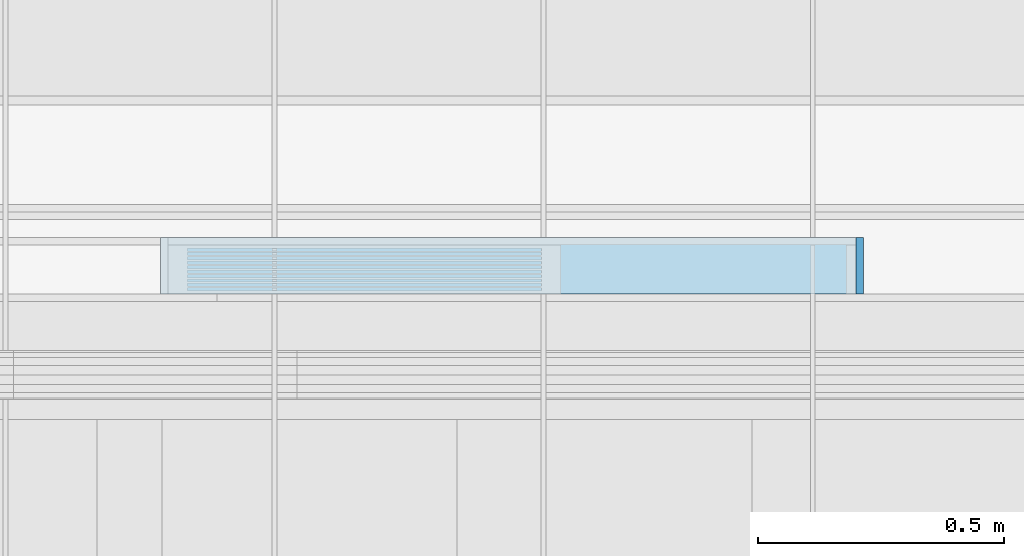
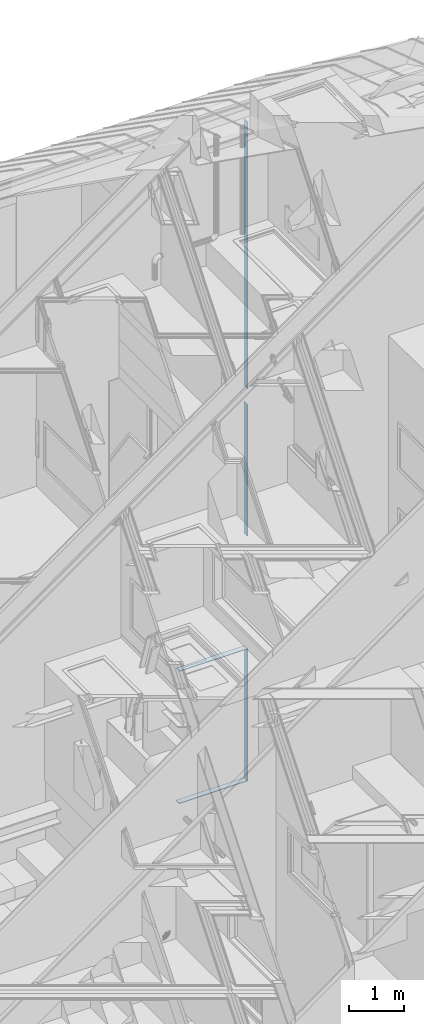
# One storey, part 294 of 583: 5 slabs.
"""IFC2X3 building model written with IfcOpenShell, lengths in metres."""

from ifc_helpers import new_model, entity, si_unit, converted_unit, derived_unit, money_unit, direction, frame, origin_with_axes, place, context, subcontext, project, spatial, faceted_brep, material, type_object, element, save


model = new_model("IFC2X3")

# Units and contexts
model_context = context("Model", 3, precision=1e-05, world=origin_with_axes(), true_north=direction((0.0, 1.0)))
body_context = subcontext(model_context, "Body", "Model", "MODEL_VIEW", scale=1.0)
ifc_project = project(units=[si_unit("LENGTHUNIT", "METRE"), si_unit("AREAUNIT", "SQUARE_METRE"), si_unit("VOLUMEUNIT", "CUBIC_METRE"), si_unit("ABSORBEDDOSEUNIT", "GRAY"), si_unit("AMOUNTOFSUBSTANCEUNIT", "MOLE"), si_unit("DOSEEQUIVALENTUNIT", "SIEVERT"), si_unit("ELECTRICCAPACITANCEUNIT", "FARAD"), si_unit("ELECTRICCHARGEUNIT", "COULOMB"), si_unit("ELECTRICCONDUCTANCEUNIT", "SIEMENS"), si_unit("ELECTRICCURRENTUNIT", "AMPERE"), si_unit("ELECTRICRESISTANCEUNIT", "OHM"), si_unit("ELECTRICVOLTAGEUNIT", "VOLT"), si_unit("ENERGYUNIT", "JOULE"), si_unit("FORCEUNIT", "NEWTON"), si_unit("FREQUENCYUNIT", "HERTZ"), si_unit("ILLUMINANCEUNIT", "LUX"), si_unit("INDUCTANCEUNIT", "HENRY"), si_unit("LUMINOUSFLUXUNIT", "LUMEN"), si_unit("LUMINOUSINTENSITYUNIT", "CANDELA"), si_unit("MAGNETICFLUXDENSITYUNIT", "TESLA"), si_unit("MAGNETICFLUXUNIT", "WEBER"), si_unit("MASSUNIT", "GRAM"), converted_unit("PLANEANGLEUNIT", "degree", entity("IfcReal", 0.0174532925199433), si_unit("PLANEANGLEUNIT", "RADIAN"), dimensions=[0, 0, 0, 0, 0, 0, 0]), si_unit("POWERUNIT", "WATT"), si_unit("PRESSUREUNIT", "PASCAL"), si_unit("RADIOACTIVITYUNIT", "BECQUEREL"), si_unit("SOLIDANGLEUNIT", "STERADIAN"), si_unit("THERMODYNAMICTEMPERATUREUNIT", "KELVIN"), si_unit("TIMEUNIT", "SECOND"), derived_unit("ACCELERATIONUNIT", [(si_unit("LENGTHUNIT", "METRE"), 1), (si_unit("TIMEUNIT", "SECOND"), -2)]), derived_unit("ANGULARVELOCITYUNIT", [(converted_unit("PLANEANGLEUNIT", "degree", entity("IfcReal", 0.0174532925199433), si_unit("PLANEANGLEUNIT", "RADIAN"), dimensions=[0, 0, 0, 0, 0, 0, 0]), 1), (si_unit("TIMEUNIT", "SECOND"), -1)]), derived_unit("CURVATUREUNIT", [(converted_unit("PLANEANGLEUNIT", "degree", entity("IfcReal", 0.0174532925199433), si_unit("PLANEANGLEUNIT", "RADIAN"), dimensions=[0, 0, 0, 0, 0, 0, 0]), 1), (si_unit("LENGTHUNIT", "METRE"), -1)]), derived_unit("DYNAMICVISCOSITYUNIT", [(si_unit("PRESSUREUNIT", "PASCAL"), 1), (si_unit("TIMEUNIT", "SECOND"), 1)]), derived_unit("HEATFLUXDENSITYUNIT", [(si_unit("POWERUNIT", "WATT"), 1), (si_unit("LENGTHUNIT", "METRE"), -2)]), derived_unit("HEATINGVALUEUNIT", [(si_unit("ENERGYUNIT", "JOULE"), 1), (si_unit("MASSUNIT", "GRAM"), -1)]), derived_unit("INTEGERCOUNTRATEUNIT", [(si_unit("TIMEUNIT", "SECOND"), -1)]), derived_unit("IONCONCENTRATIONUNIT", [(si_unit("MASSUNIT", "GRAM"), 1), (si_unit("VOLUMEUNIT", "CUBIC_METRE"), -1)]), derived_unit("ISOTHERMALMOISTURECAPACITYUNIT", [(si_unit("VOLUMEUNIT", "CUBIC_METRE"), 1), (si_unit("MASSUNIT", "GRAM"), -1)]), derived_unit("KINEMATICVISCOSITYUNIT", [(si_unit("AREAUNIT", "SQUARE_METRE"), 1), (si_unit("TIMEUNIT", "SECOND"), -1)]), derived_unit("LINEARFORCEUNIT", [(si_unit("FORCEUNIT", "NEWTON"), 1), (si_unit("LENGTHUNIT", "METRE"), -1)]), derived_unit("LINEARMOMENTUNIT", [(si_unit("FORCEUNIT", "NEWTON"), 1), (si_unit("LENGTHUNIT", "METRE"), -1)]), derived_unit("LINEARSTIFFNESSUNIT", [(si_unit("FORCEUNIT", "NEWTON"), 1), (si_unit("LENGTHUNIT", "METRE"), -1)]), derived_unit("LINEARVELOCITYUNIT", [(si_unit("LENGTHUNIT", "METRE"), 1), (si_unit("TIMEUNIT", "SECOND"), -1)]), derived_unit("LUMINOUSINTENSITYDISTRIBUTIONUNIT", [(si_unit("LUMINOUSINTENSITYUNIT", "CANDELA"), 1), (si_unit("LUMINOUSFLUXUNIT", "LUMEN"), -1)]), derived_unit("MASSDENSITYUNIT", [(si_unit("MASSUNIT", "GRAM"), 1), (si_unit("VOLUMEUNIT", "CUBIC_METRE"), -1)]), derived_unit("MASSFLOWRATEUNIT", [(si_unit("MASSUNIT", "GRAM"), 1), (si_unit("TIMEUNIT", "SECOND"), -1)]), derived_unit("MASSPERLENGTHUNIT", [(si_unit("MASSUNIT", "GRAM"), 1), (si_unit("LENGTHUNIT", "METRE"), -1)]), derived_unit("MODULUSOFELASTICITYUNIT", [(si_unit("FORCEUNIT", "NEWTON"), 1), (si_unit("AREAUNIT", "SQUARE_METRE"), -1)]), derived_unit("MODULUSOFLINEARSUBGRADEREACTIONUNIT", [(si_unit("FORCEUNIT", "NEWTON"), 1), (si_unit("LENGTHUNIT", "METRE"), -2)]), derived_unit("MODULUSOFROTATIONALSUBGRADEREACTIONUNIT", [(si_unit("FORCEUNIT", "NEWTON"), 1), (si_unit("LENGTHUNIT", "METRE"), 1)]), derived_unit("MODULUSOFSUBGRADEREACTIONUNIT", [(si_unit("FORCEUNIT", "NEWTON"), 1), (si_unit("VOLUMEUNIT", "CUBIC_METRE"), -1)]), derived_unit("MOISTUREDIFFUSIVITYUNIT", [(si_unit("VOLUMEUNIT", "CUBIC_METRE"), 1), (si_unit("TIMEUNIT", "SECOND"), -1)]), derived_unit("MOLECULARWEIGHTUNIT", [(si_unit("MASSUNIT", "GRAM"), 1), (si_unit("AMOUNTOFSUBSTANCEUNIT", "MOLE"), -1)]), derived_unit("PLANARFORCEUNIT", [(si_unit("FORCEUNIT", "NEWTON"), 1), (si_unit("LENGTHUNIT", "METRE"), -2)]), derived_unit("ROTATIONALFREQUENCYUNIT", [(si_unit("TIMEUNIT", "SECOND"), -1)]), derived_unit("ROTATIONALMASSUNIT", [(si_unit("MASSUNIT", "GRAM"), 1), (si_unit("LENGTHUNIT", "METRE"), 2)]), derived_unit("ROTATIONALSTIFFNESSUNIT", [(si_unit("FORCEUNIT", "NEWTON"), 1), (si_unit("LENGTHUNIT", "METRE"), 1), (converted_unit("PLANEANGLEUNIT", "degree", entity("IfcReal", 0.0174532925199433), si_unit("PLANEANGLEUNIT", "RADIAN"), dimensions=[0, 0, 0, 0, 0, 0, 0]), -1)]), derived_unit("SECTIONAREAINTEGRALUNIT", [(si_unit("LENGTHUNIT", "METRE"), 5)]), derived_unit("SECTIONMODULUSUNIT", [(si_unit("LENGTHUNIT", "METRE"), 3)]), derived_unit("SHEARMODULUSUNIT", [(si_unit("FORCEUNIT", "NEWTON"), 1), (si_unit("AREAUNIT", "SQUARE_METRE"), -1)]), derived_unit("SOUNDPOWERUNIT", [(si_unit("ENERGYUNIT", "JOULE"), 1), (si_unit("TIMEUNIT", "SECOND"), -1)]), derived_unit("SPECIFICHEATCAPACITYUNIT", [(si_unit("FORCEUNIT", "NEWTON"), 1), (si_unit("MASSUNIT", "GRAM"), -1), (si_unit("THERMODYNAMICTEMPERATUREUNIT", "KELVIN"), -1)]), derived_unit("TEMPERATUREGRADIENTUNIT", [(si_unit("THERMODYNAMICTEMPERATUREUNIT", "KELVIN"), 1), (si_unit("LENGTHUNIT", "METRE"), -1)]), derived_unit("THERMALADMITTANCEUNIT", [(si_unit("POWERUNIT", "WATT"), 1), (si_unit("AREAUNIT", "SQUARE_METRE"), -1), (si_unit("THERMODYNAMICTEMPERATUREUNIT", "KELVIN"), -1)]), derived_unit("THERMALCONDUCTANCEUNIT", [(si_unit("POWERUNIT", "WATT"), 1), (si_unit("LENGTHUNIT", "METRE"), -1), (si_unit("THERMODYNAMICTEMPERATUREUNIT", "KELVIN"), -1)]), derived_unit("THERMALEXPANSIONCOEFFICIENTUNIT", [(si_unit("THERMODYNAMICTEMPERATUREUNIT", "KELVIN"), -1)]), derived_unit("THERMALRESISTANCEUNIT", [(si_unit("AREAUNIT", "SQUARE_METRE"), 1), (si_unit("POWERUNIT", "WATT"), -1)]), derived_unit("THERMALTRANSMITTANCEUNIT", [(si_unit("POWERUNIT", "WATT"), 1), (si_unit("AREAUNIT", "SQUARE_METRE"), -1), (si_unit("THERMODYNAMICTEMPERATUREUNIT", "KELVIN"), -1)]), derived_unit("TORQUEUNIT", [(si_unit("FORCEUNIT", "NEWTON"), 1), (si_unit("LENGTHUNIT", "METRE"), 1)]), derived_unit("VAPORPERMEABILITYUNIT", [(si_unit("MASSUNIT", "GRAM"), 1), (si_unit("TIMEUNIT", "SECOND"), -1)]), derived_unit("VOLUMETRICFLOWRATEUNIT", [(si_unit("VOLUMEUNIT", "CUBIC_METRE"), 1), (si_unit("TIMEUNIT", "SECOND"), -1)]), derived_unit("WARPINGCONSTANTUNIT", [(si_unit("LENGTHUNIT", "METRE"), 6)]), derived_unit("WARPINGMOMENTUNIT", [(si_unit("FORCEUNIT", "NEWTON"), 1), (si_unit("LENGTHUNIT", "METRE"), 2)]), money_unit("GBP")], contexts=[model_context])

# Site, building, storey
site_placement = place(None, origin_with_axes())
site = spatial("IfcSite", under=ifc_project, at=site_placement, Name="Site", CompositionType="ELEMENT")
building_placement = place(site_placement, origin_with_axes())
building = spatial("IfcBuilding", under=site, at=building_placement, Name="Building01", CompositionType="ELEMENT")
storey_placement = place(building_placement, frame((0.0, 0.0, 20.78), z_axis=(0.0, 0.0, 1.0), x_axis=(1.0, 0.0, 0.0)))
storey = spatial("IfcBuildingStorey", under=building, at=storey_placement, Name="RL", CompositionType="ELEMENT", Elevation=20.78)

# Slabs
ifc_material = material(Name="A_BSUK_CeilingSoffitFinishes_Suspended")
slab_type = type_object("IfcSlabType", Name="A-FloorsSlabs A_BSUK_Slabs", PredefinedType="FLOOR")
placement = place(storey_placement, frame((0.0, 0.0, -20.78), z_axis=(0.0, 0.0, 1.0), x_axis=(1.0, 0.0, 0.0)))
element("IfcSlab", 1, at=placement, inside=storey, type_object=slab_type, material=ifc_material, Name="A-FloorsSlabs A_BSUK_Slabs", ObjectType="CompoundSlabLeaf", context=body_context, shape_type="Brep", body=[
    faceted_brep([(10.8116, 20.195, 23.9), (10.8266, 20.195, 23.9), (10.8266, 20.31, 23.9), (10.8116, 20.31, 23.9), (10.8116, 20.195, 18.0), (10.8266, 20.195, 18.0), (10.8116, 20.31, 18.0), (10.8266, 20.31, 18.0)], [[[0, 1, 2, 3]], [[4, 5, 1, 0]], [[6, 7, 5, 4]], [[3, 2, 7, 6]], [[1, 5, 7, 2]], [[3, 6, 4, 0]]]),
])
element("IfcSlab", 2, at=placement, inside=storey, type_object=slab_type, material=ifc_material, Name="A-FloorsSlabs A_BSUK_Slabs", ObjectType="CompoundSlabLeaf", context=body_context, shape_type="Brep", body=[
    faceted_brep([(10.8116, 20.195, 17.65), (10.8266, 20.195, 17.65), (10.8266, 20.31, 17.65), (10.8116, 20.31, 17.65), (10.8116, 20.195, 14.75), (10.8266, 20.195, 14.75), (10.8116, 20.31, 14.75), (10.8266, 20.31, 14.75)], [[[0, 1, 2, 3]], [[4, 5, 1, 0]], [[6, 7, 5, 4]], [[3, 2, 7, 6]], [[1, 5, 7, 2]], [[3, 6, 4, 0]]]),
])
element("IfcSlab", 3, at=placement, inside=storey, type_object=slab_type, material=ifc_material, Name="A-FloorsSlabs A_BSUK_Slabs", ObjectType="CompoundSlabLeaf", context=body_context, shape_type="Brep", body=[
    faceted_brep([(10.8266, 20.195, 9.35), (10.8266, 20.195, 9.335), (10.8266, 20.31, 9.335), (10.8266, 20.31, 9.35), (9.3966, 20.195, 9.35), (9.3966, 20.195, 9.335), (9.3966, 20.31, 9.35), (9.3966, 20.31, 9.335)], [[[0, 1, 2, 3]], [[4, 5, 1, 0]], [[6, 7, 5, 4]], [[3, 2, 7, 6]], [[1, 5, 7, 2]], [[3, 6, 4, 0]]]),
])
element("IfcSlab", 4, at=placement, inside=storey, type_object=slab_type, material=ifc_material, Name="A-FloorsSlabs A_BSUK_Slabs", ObjectType="CompoundSlabLeaf", context=body_context, shape_type="Brep", body=[
    faceted_brep([(10.8116, 20.195, 12.25), (10.8266, 20.195, 12.25), (10.8266, 20.31, 12.25), (10.8116, 20.31, 12.25), (10.8116, 20.195, 9.35), (10.8266, 20.195, 9.35), (10.8116, 20.31, 9.35), (10.8266, 20.31, 9.35)], [[[0, 1, 2, 3]], [[4, 5, 1, 0]], [[6, 7, 5, 4]], [[3, 2, 7, 6]], [[1, 5, 7, 2]], [[3, 6, 4, 0]]]),
])
element("IfcSlab", 5, at=placement, inside=storey, type_object=slab_type, material=ifc_material, Name="A-FloorsSlabs A_BSUK_Slabs", ObjectType="CompoundSlabLeaf", context=body_context, shape_type="Brep", body=[
    faceted_brep([(10.8266, 20.195, 12.265), (10.8266, 20.195, 12.25), (10.8266, 20.31, 12.25), (10.8266, 20.31, 12.265), (9.3966, 20.195, 12.265), (9.3966, 20.195, 12.25), (9.3966, 20.31, 12.265), (9.3966, 20.31, 12.25)], [[[0, 1, 2, 3]], [[4, 5, 1, 0]], [[6, 7, 5, 4]], [[3, 2, 7, 6]], [[1, 5, 7, 2]], [[3, 6, 4, 0]]]),
])

save(model, "model.ifc")
